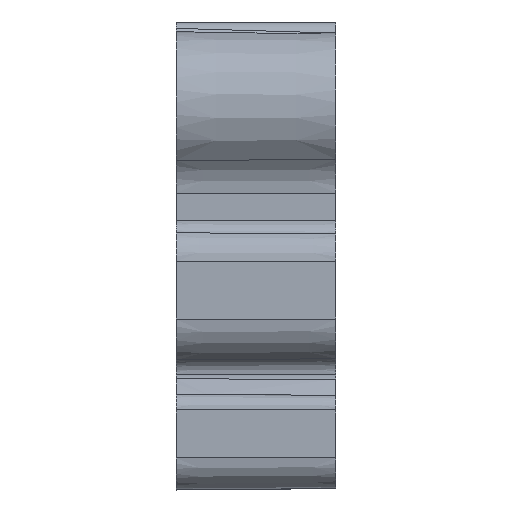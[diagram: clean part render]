
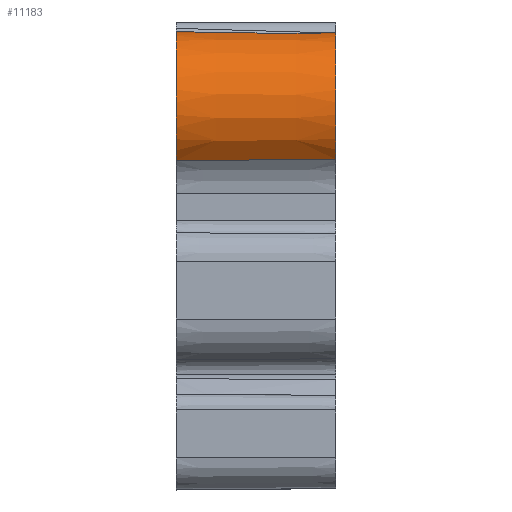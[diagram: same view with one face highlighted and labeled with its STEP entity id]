
A CAD part, top view. The second image highlights one B-rep face of the part: STEP entity #11183.
In plain terms, the highlighted conical face has half-angle 0.5 degrees and reference radius 2.4 mm.
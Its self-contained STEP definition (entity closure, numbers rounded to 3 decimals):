
#836 = EDGE_CURVE ( 'NONE', #11047, #2350, #1465, .T. ) ;
#1465 = CIRCLE ( 'NONE', #6601, 2.4 ) ;
#1742 = CARTESIAN_POINT ( 'NONE',  ( -2.5, 7.82, 32.62 ) ) ;
#2350 = VERTEX_POINT ( 'NONE', #1742 ) ;
#2772 = CARTESIAN_POINT ( 'NONE',  ( 2.5, 3.841, 34.722 ) ) ;
#3127 = LINE ( 'NONE', #5813, #3908 ) ;
#3296 = CARTESIAN_POINT ( 'NONE',  ( -2.5, 5.45, 33. ) ) ;
#3516 = ORIENTED_EDGE ( 'NONE', *, *, #8558, .T. ) ;
#3908 = VECTOR ( 'NONE', #12676, 1000. ) ;
#4124 = DIRECTION ( 'NONE',  ( -1., 0., 0. ) ) ;
#4227 = CARTESIAN_POINT ( 'NONE',  ( 2.5, 7.777, 32.627 ) ) ;
#4966 = DIRECTION ( 'NONE',  ( 0., 0., -1. ) ) ;
#5129 = CONICAL_SURFACE ( 'NONE', #6350, 2.4, 0.009 ) ;
#5130 = DIRECTION ( 'NONE',  ( -1., 0., 0. ) ) ;
#5353 = ORIENTED_EDGE ( 'NONE', *, *, #11904, .F. ) ;
#5813 = CARTESIAN_POINT ( 'NONE',  ( -2.5, 3.812, 34.754 ) ) ;
#5909 = EDGE_LOOP ( 'NONE', ( #9047, #3516, #5353, #7132 ) ) ;
#6350 = AXIS2_PLACEMENT_3D ( 'NONE', #7888, #4124, #4966 ) ;
#6575 = AXIS2_PLACEMENT_3D ( 'NONE', #12088, #12140, #11240 ) ;
#6601 = AXIS2_PLACEMENT_3D ( 'NONE', #3296, #5130, #8095 ) ;
#7132 = ORIENTED_EDGE ( 'NONE', *, *, #836, .F. ) ;
#7204 = VERTEX_POINT ( 'NONE', #4227 ) ;
#7469 = LINE ( 'NONE', #12725, #9411 ) ;
#7728 = CARTESIAN_POINT ( 'NONE',  ( -2.5, 3.812, 34.754 ) ) ;
#7888 = CARTESIAN_POINT ( 'NONE',  ( -2.5, 5.45, 33. ) ) ;
#7992 = EDGE_CURVE ( 'NONE', #11047, #10298, #3127, .T. ) ;
#8038 = CIRCLE ( 'NONE', #6575, 2.356 ) ;
#8095 = DIRECTION ( 'NONE',  ( 0., 0., -1. ) ) ;
#8558 = EDGE_CURVE ( 'NONE', #10298, #7204, #8038, .T. ) ;
#8846 = DIRECTION ( 'NONE',  ( 1., -0.009, 0.001 ) ) ;
#9047 = ORIENTED_EDGE ( 'NONE', *, *, #7992, .T. ) ;
#9411 = VECTOR ( 'NONE', #8846, 1000. ) ;
#10298 = VERTEX_POINT ( 'NONE', #2772 ) ;
#11047 = VERTEX_POINT ( 'NONE', #7728 ) ;
#11183 = ADVANCED_FACE ( 'NONE', ( #11295 ), #5129, .T. ) ;
#11240 = DIRECTION ( 'NONE',  ( 0., 0., -1. ) ) ;
#11295 = FACE_OUTER_BOUND ( 'NONE', #5909, .T. ) ;
#11904 = EDGE_CURVE ( 'NONE', #2350, #7204, #7469, .T. ) ;
#12088 = CARTESIAN_POINT ( 'NONE',  ( 2.5, 5.45, 33. ) ) ;
#12140 = DIRECTION ( 'NONE',  ( -1., 0., 0. ) ) ;
#12676 = DIRECTION ( 'NONE',  ( 1., 0.006, -0.006 ) ) ;
#12725 = CARTESIAN_POINT ( 'NONE',  ( -2.5, 7.82, 32.62 ) ) ;
